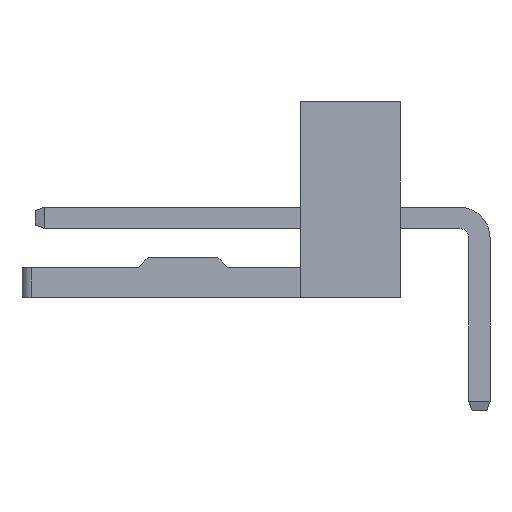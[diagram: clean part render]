
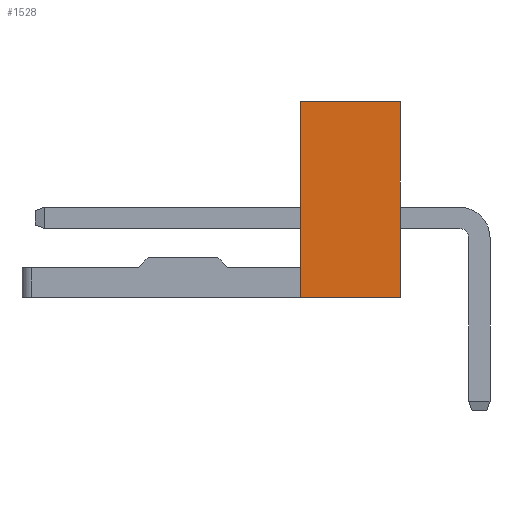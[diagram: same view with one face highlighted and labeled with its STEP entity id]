
A CAD part, left-side view. The second image highlights one B-rep face of the part: STEP entity #1528.
In plain terms, the highlighted planar face has unit normal (-1, 0, 0).
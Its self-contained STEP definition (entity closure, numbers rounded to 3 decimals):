
#104=FACE_OUTER_BOUND('',#188,.T.);
#188=EDGE_LOOP('',(#1215,#1216,#1217,#1218));
#333=LINE('',#2386,#521);
#339=LINE('',#2400,#527);
#345=LINE('',#2410,#533);
#358=LINE('',#2437,#546);
#521=VECTOR('',#1974,1000.);
#527=VECTOR('',#1986,1000.);
#533=VECTOR('',#1994,1000.);
#546=VECTOR('',#2019,1000.);
#673=VERTEX_POINT('',#2383);
#674=VERTEX_POINT('',#2385);
#678=VERTEX_POINT('',#2397);
#679=VERTEX_POINT('',#2399);
#844=EDGE_CURVE('',#673,#674,#333,.T.);
#851=EDGE_CURVE('',#679,#678,#339,.T.);
#857=EDGE_CURVE('',#678,#674,#345,.T.);
#870=EDGE_CURVE('',#673,#679,#358,.T.);
#1215=ORIENTED_EDGE('',*,*,#857,.T.);
#1216=ORIENTED_EDGE('',*,*,#844,.F.);
#1217=ORIENTED_EDGE('',*,*,#870,.T.);
#1218=ORIENTED_EDGE('',*,*,#851,.T.);
#1368=PLANE('',#1707);
#1528=ADVANCED_FACE('',(#104),#1368,.T.);
#1707=AXIS2_PLACEMENT_3D('',#2438,#2020,#2021);
#1974=DIRECTION('',(0.,1.,0.));
#1986=DIRECTION('',(0.,1.,0.));
#1994=DIRECTION('',(0.,0.,-1.));
#2019=DIRECTION('',(0.,0.,1.));
#2020=DIRECTION('center_axis',(-1.,0.,0.));
#2021=DIRECTION('ref_axis',(0.,0.,1.));
#2383=CARTESIAN_POINT('',(-1.27,2.38,0.));
#2385=CARTESIAN_POINT('',(-1.27,5.38,0.));
#2386=CARTESIAN_POINT('',(-1.27,2.38,0.));
#2397=CARTESIAN_POINT('',(-1.27,5.38,5.9));
#2399=CARTESIAN_POINT('',(-1.27,2.38,5.9));
#2400=CARTESIAN_POINT('',(-1.27,2.38,5.9));
#2410=CARTESIAN_POINT('',(-1.27,5.38,0.));
#2437=CARTESIAN_POINT('',(-1.27,2.38,0.));
#2438=CARTESIAN_POINT('Origin',(-1.27,2.38,0.));
